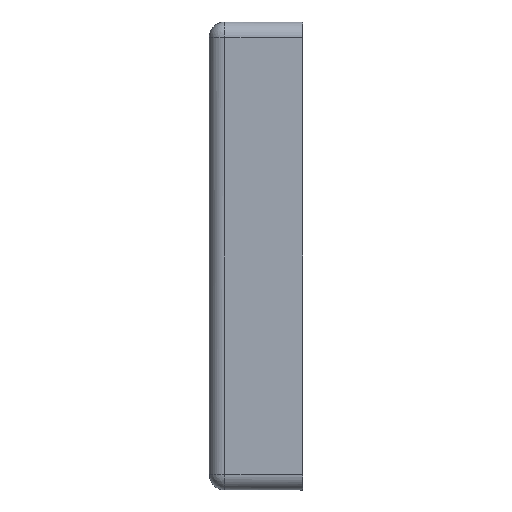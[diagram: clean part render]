
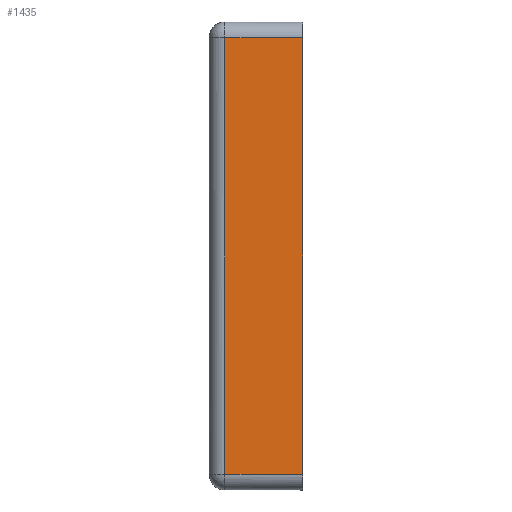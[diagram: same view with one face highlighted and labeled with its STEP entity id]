
A CAD part, left-side view. The second image highlights one B-rep face of the part: STEP entity #1435.
In plain terms, the highlighted planar face has unit normal (-1, 0, 0).
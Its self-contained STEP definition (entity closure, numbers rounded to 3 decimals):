
#9 = FACE_OUTER_BOUND ( 'NONE', #6728, .T. ) ;
#263 = LINE ( 'NONE', #5986, #1214 ) ;
#609 = EDGE_CURVE ( 'NONE', #6255, #6529, #717, .T. ) ;
#717 = LINE ( 'NONE', #3422, #5129 ) ;
#819 = DIRECTION ( 'NONE',  ( 0., 0., 1. ) ) ;
#829 = AXIS2_PLACEMENT_3D ( 'NONE', #2249, #6690, #2103 ) ;
#841 = EDGE_CURVE ( 'NONE', #6529, #6323, #5568, .T. ) ;
#1214 = VECTOR ( 'NONE', #819, 1000. ) ;
#1435 = ADVANCED_FACE ( 'NONE', ( #9 ), #5505, .F. ) ;
#1612 = ORIENTED_EDGE ( 'NONE', *, *, #609, .F. ) ;
#1645 = CARTESIAN_POINT ( 'NONE',  ( -30., 6.002, -22.002 ) ) ;
#1694 = ORIENTED_EDGE ( 'NONE', *, *, #1843, .F. ) ;
#1843 = EDGE_CURVE ( 'NONE', #6323, #6904, #263, .T. ) ;
#1870 = ORIENTED_EDGE ( 'NONE', *, *, #841, .F. ) ;
#2103 = DIRECTION ( 'NONE',  ( 0., 0., -1. ) ) ;
#2249 = CARTESIAN_POINT ( 'NONE',  ( -30., 6.002, -24.002 ) ) ;
#2707 = ORIENTED_EDGE ( 'NONE', *, *, #3292, .F. ) ;
#3102 = LINE ( 'NONE', #6181, #7315 ) ;
#3110 = CARTESIAN_POINT ( 'NONE',  ( -30., 4.002, 33.998 ) ) ;
#3292 = EDGE_CURVE ( 'NONE', #6904, #6255, #3102, .T. ) ;
#3368 = DIRECTION ( 'NONE',  ( 0., 0., -1. ) ) ;
#3422 = CARTESIAN_POINT ( 'NONE',  ( -30., -5.998, -24.002 ) ) ;
#3955 = CARTESIAN_POINT ( 'NONE',  ( -30., -5.998, -22.002 ) ) ;
#4035 = VECTOR ( 'NONE', #4530, 1000. ) ;
#4235 = CARTESIAN_POINT ( 'NONE',  ( -30., -5.998, 33.998 ) ) ;
#4315 = CARTESIAN_POINT ( 'NONE',  ( -30., 4.002, -22.002 ) ) ;
#4530 = DIRECTION ( 'NONE',  ( 0., 1., 0. ) ) ;
#5113 = DIRECTION ( 'NONE',  ( 0., -1., 0. ) ) ;
#5129 = VECTOR ( 'NONE', #3368, 1000. ) ;
#5505 = PLANE ( 'NONE',  #829 ) ;
#5568 = LINE ( 'NONE', #1645, #4035 ) ;
#5986 = CARTESIAN_POINT ( 'NONE',  ( -30., 4.002, -24.002 ) ) ;
#6181 = CARTESIAN_POINT ( 'NONE',  ( -30., 6.002, 33.998 ) ) ;
#6255 = VERTEX_POINT ( 'NONE', #4235 ) ;
#6323 = VERTEX_POINT ( 'NONE', #4315 ) ;
#6529 = VERTEX_POINT ( 'NONE', #3955 ) ;
#6690 = DIRECTION ( 'NONE',  ( 1., 0., 0. ) ) ;
#6728 = EDGE_LOOP ( 'NONE', ( #1870, #1612, #2707, #1694 ) ) ;
#6904 = VERTEX_POINT ( 'NONE', #3110 ) ;
#7315 = VECTOR ( 'NONE', #5113, 1000. ) ;
